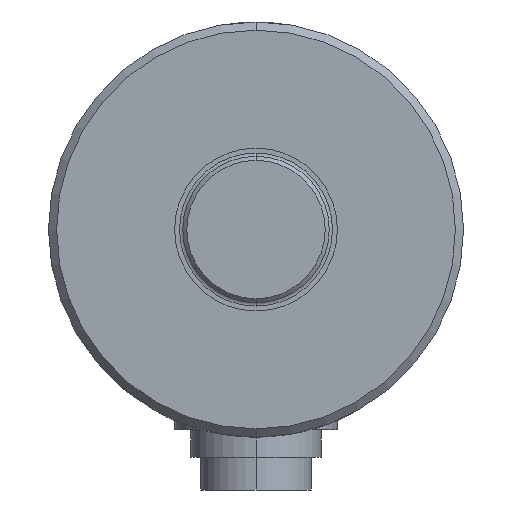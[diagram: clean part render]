
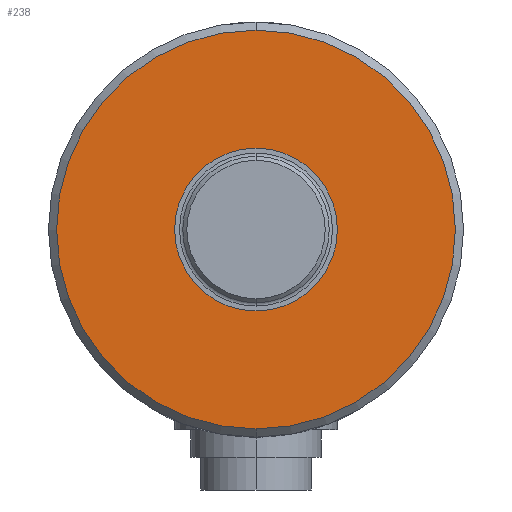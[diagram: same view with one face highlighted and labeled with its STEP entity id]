
A CAD part, left-side view. The second image highlights one B-rep face of the part: STEP entity #238.
In plain terms, the highlighted planar face has unit normal (-1, 0, 0).
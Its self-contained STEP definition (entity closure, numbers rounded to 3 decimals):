
#238=ADVANCED_FACE('',(#495,#496),#497,.T.);
#495=FACE_OUTER_BOUND('',#1412,.T.);
#496=FACE_BOUND('',#1413,.T.);
#497=PLANE('',#1414);
#1412=EDGE_LOOP('',(#1990,#1991));
#1413=EDGE_LOOP('',(#1992,#1993));
#1414=AXIS2_PLACEMENT_3D('',#1994,#1995,#1996);
#1990=ORIENTED_EDGE('',*,*,#2176,.F.);
#1991=ORIENTED_EDGE('',*,*,#2340,.F.);
#1992=ORIENTED_EDGE('',*,*,#2182,.T.);
#1993=ORIENTED_EDGE('',*,*,#2338,.T.);
#1994=CARTESIAN_POINT('',(-40.,0.0,-17.25));
#1995=DIRECTION('',(-1.0,0.0,0.0));
#1996=DIRECTION('',(0.0,0.0,1.0));
#2176=EDGE_CURVE('',#2466,#2468,#2469,.T.);
#2182=EDGE_CURVE('',#2473,#2477,#2479,.T.);
#2338=EDGE_CURVE('',#2477,#2473,#2695,.T.);
#2340=EDGE_CURVE('',#2468,#2466,#2697,.T.);
#2466=VERTEX_POINT('',#3060);
#2468=VERTEX_POINT('',#3063);
#2469=CIRCLE('',#3064,24.5);
#2473=VERTEX_POINT('',#3069);
#2477=VERTEX_POINT('',#3074);
#2479=CIRCLE('',#3077,10.);
#2695=CIRCLE('',#3458,10.);
#2697=CIRCLE('',#3460,24.5);
#3060=CARTESIAN_POINT('',(-40.,0.0,-24.5));
#3063=CARTESIAN_POINT('',(-40.,0.,24.5));
#3064=AXIS2_PLACEMENT_3D('',#3560,#3561,#3562);
#3069=CARTESIAN_POINT('',(-40.,0.0,-10.));
#3074=CARTESIAN_POINT('',(-40.,0.,10.));
#3077=AXIS2_PLACEMENT_3D('',#3569,#3570,#3571);
#3458=AXIS2_PLACEMENT_3D('',#3799,#3800,#3801);
#3460=AXIS2_PLACEMENT_3D('',#3802,#3803,#3804);
#3560=CARTESIAN_POINT('',(-40.,0.0,0.0));
#3561=DIRECTION('',(1.0,0.0,0.0));
#3562=DIRECTION('',(0.0,0.0,-1.0));
#3569=CARTESIAN_POINT('',(-40.,0.0,0.0));
#3570=DIRECTION('',(1.0,0.0,0.0));
#3571=DIRECTION('',(0.0,0.0,-1.0));
#3799=CARTESIAN_POINT('',(-40.,0.0,0.0));
#3800=DIRECTION('',(1.0,0.0,0.0));
#3801=DIRECTION('',(0.0,0.0,-1.0));
#3802=CARTESIAN_POINT('',(-40.,0.0,0.0));
#3803=DIRECTION('',(1.0,0.0,0.0));
#3804=DIRECTION('',(0.0,0.0,-1.0));
